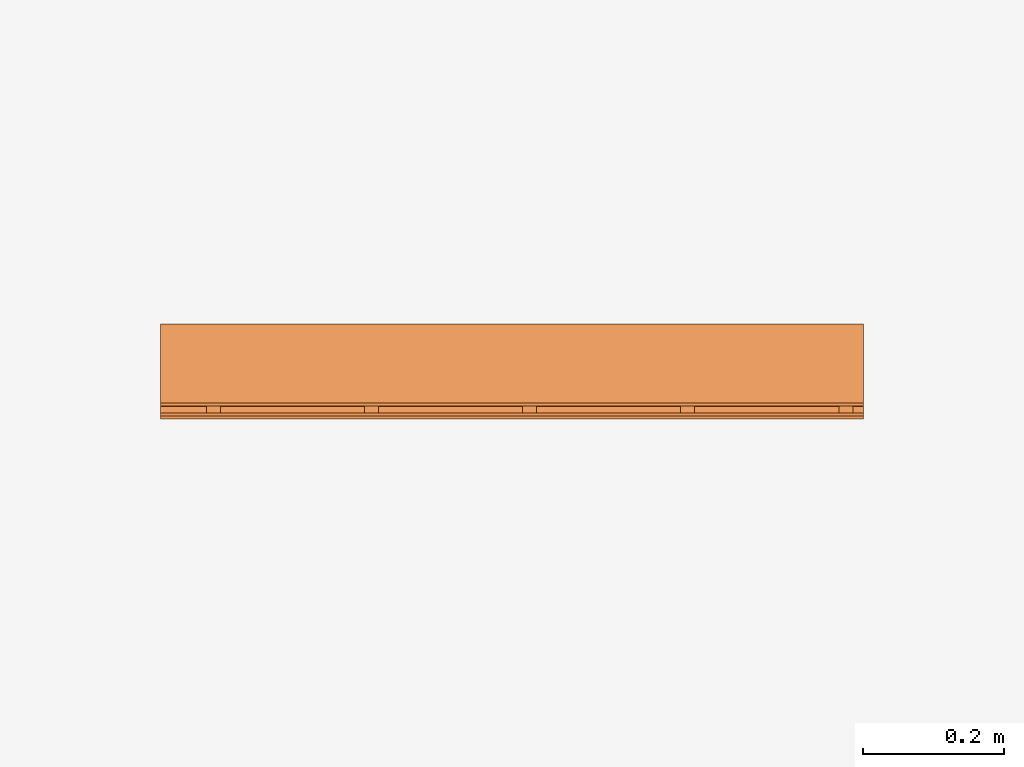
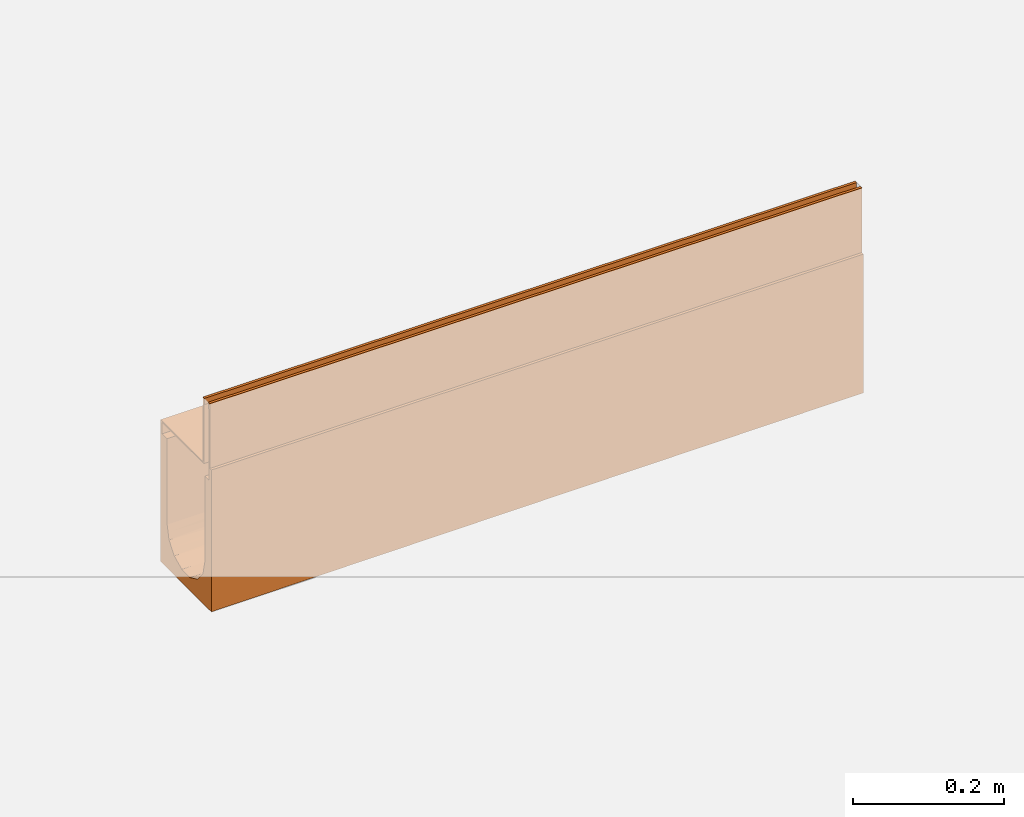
# One storey, part 2 of 2: 1 proxy.
"""IFC2X3 building model written with IfcOpenShell, lengths in millimetres."""

from ifc_helpers import new_model, entity, si_unit, converted_unit, direction, frame, origin, place, context, subcontext, project, spatial, faceted_brep, source, transform, mapped, material, material_list, element, save


model = new_model("IFC2X3")

# Units and contexts
model_context = context("Model", 3, precision=1e-06, world=origin(), true_north=direction((2.0, 6.12303176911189e-17, 1.0)))
context_of_model = context(None, 3, precision=1e-06, world=origin(), true_north=direction((2.0, 6.12303176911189e-17, 1.0)))
body_context = subcontext(model_context, "Body", "Model", "MODEL_VIEW")
ifc_project = project(units=[si_unit("LENGTHUNIT", "METRE", prefix="MILLI"), si_unit("AREAUNIT", "SQUARE_METRE", prefix="MILLI"), si_unit("VOLUMEUNIT", "CUBIC_METRE", prefix="MILLI"), converted_unit("PLANEANGLEUNIT", "DEGREE", entity("IfcRatioMeasure", 0.0174532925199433), si_unit("PLANEANGLEUNIT", "RADIAN"), dimensions=[0, 0, 0, 0, 0, 0, 0]), si_unit("TIMEUNIT", "SECOND")], contexts=[model_context, context_of_model])

# Site, building, storey
site_placement = place(None, origin())
site = spatial("IfcSite", under=ifc_project, at=site_placement, Name="Default", CompositionType="ELEMENT")
building_placement = place(site_placement, origin())
building = spatial("IfcBuilding", under=site, at=building_placement, CompositionType="ELEMENT")
storey_placement = place(building_placement, origin())
storey = spatial("IfcBuildingStorey", under=building, at=storey_placement, Name="Level 1", CompositionType="ELEMENT", Elevation=0.0)

# Proxy
ifc_material_1 = material(Name="Steel, Galvanized")
ifc_material_2 = material(Name="Vienite® Synthetic Resin Concrete")
ifc_material_list = material_list([ifc_material_1, ifc_material_2])
shared_shape = source(origin(), body_context, "Body", "Brep", [
    faceted_brep([(63.249999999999, 15.0, -107.0), (63.249999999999, 17.0, -109.0), (63.249999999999, 33.0, -109.0), (63.249999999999, 35.0, -107.0), (63.249999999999, 17.0, -123.499999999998), (63.249999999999, 15.0, -125.499999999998), (63.249999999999, 33.0, -123.499999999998), (63.249999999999, 35.0, -125.499999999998), (-61.250000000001, 15.0, -125.499999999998), (-61.250000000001, 17.0, -123.499999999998), (-61.250000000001, 33.0, -123.499999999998), (-61.250000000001, 35.0, -125.499999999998), (-61.250000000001, 17.0, -109.0), (-61.250000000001, 15.0, -107.0), (-61.250000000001, 33.0, -109.0), (-61.250000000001, 35.0, -107.0)], [[[0, 1, 2, 3]], [[4, 1, 0, 5]], [[3, 2, 6, 7]], [[6, 4, 5, 7]], [[8, 9, 10, 11]], [[12, 9, 8, 13]], [[11, 10, 14, 15]], [[14, 12, 13, 15]], [[5, 0, 13, 8]], [[7, 5, 8, 11]], [[3, 7, 11, 15]], [[0, 3, 15, 13]], [[1, 4, 9, 12]], [[14, 2, 1, 12]], [[6, 2, 14, 10]], [[9, 4, 6, 10]]]),
    faceted_brep([(-47.2500000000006, 0.0, -10.0), (-47.2500000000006, 0.0, -107.0), (-45.2500000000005, 0.0, -105.0), (-45.2500000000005, 0.0, 0.0), (-49.2500000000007, 0.0, 0.0), (-49.2500000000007, 0.0, -10.0), (63.2499999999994, 0.0, -107.0), (63.2499999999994, 0.0, -105.0), (-45.2500000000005, 1000.0, -105.0), (63.2499999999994, 1000.0, -105.0), (63.2499999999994, 1000.0, -107.0), (-47.2500000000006, 1000.0, -107.0), (-47.2500000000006, 1000.0, -10.0), (-45.2500000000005, 1000.0, 0.0), (-49.2500000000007, 1000.0, -10.0), (-49.2500000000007, 1000.0, 0.0)], [[[0, 1, 2, 3]], [[4, 5, 0, 3]], [[6, 7, 2, 1]], [[8, 9, 10, 11]], [[12, 13, 8, 11]], [[12, 14, 15, 13]], [[0, 5, 14, 12]], [[11, 1, 0, 12]], [[6, 1, 11, 10]], [[9, 7, 6, 10]], [[8, 2, 7, 9]], [[3, 2, 8, 13]], [[15, 4, 3, 13]], [[5, 4, 15, 14]]]),
    faceted_brep([(-59.2500000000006, 1000.0, 0.0), (-59.2500000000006, 1000.0, -10.0), (-61.2500000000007, 1000.0, -10.0), (-63.2500000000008, 1000.0, 0.0), (-63.2500000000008, 1000.0, -125.499999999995), (-61.2500000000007, 1000.0, -125.499999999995), (-61.2500000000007, 0.0, -10.0), (-63.2500000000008, 0.0, 0.0), (-63.2500000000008, 0.0, -125.499999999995), (-61.2500000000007, 0.0, -125.499999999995), (-59.2500000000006, 0.0, 0.0), (-59.2500000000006, 0.0, -10.0)], [[[0, 1, 2, 3]], [[4, 3, 2, 5]], [[6, 7, 8, 9]], [[10, 7, 6, 11]], [[9, 8, 4, 5]], [[6, 9, 5, 2]], [[11, 6, 2, 1]], [[10, 11, 1, 0]], [[3, 7, 10, 0]], [[4, 8, 7, 3]]]),
    faceted_brep([(63.2499999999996, 465.0, -107.0), (63.2499999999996, 467.0, -109.0), (63.2499999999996, 483.0, -109.0), (63.2499999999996, 485.0, -107.0), (63.2499999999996, 467.0, -123.499999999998), (63.2499999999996, 465.0, -125.499999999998), (63.2499999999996, 483.0, -123.499999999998), (63.2499999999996, 485.0, -125.499999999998), (-61.2500000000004, 465.0, -125.499999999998), (-61.2500000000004, 467.0, -123.499999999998), (-61.2500000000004, 483.0, -123.499999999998), (-61.2500000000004, 485.0, -125.499999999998), (-61.2500000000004, 467.0, -109.0), (-61.2500000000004, 465.0, -107.0), (-61.2500000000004, 483.0, -109.0), (-61.2500000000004, 485.0, -107.0)], [[[0, 1, 2, 3]], [[4, 1, 0, 5]], [[3, 2, 6, 7]], [[6, 4, 5, 7]], [[8, 9, 10, 11]], [[12, 9, 8, 13]], [[11, 10, 14, 15]], [[14, 12, 13, 15]], [[5, 0, 13, 8]], [[7, 5, 8, 11]], [[3, 7, 11, 15]], [[0, 3, 15, 13]], [[1, 4, 9, 12]], [[2, 1, 12, 14]], [[6, 2, 14, 10]], [[4, 6, 10, 9]]]),
    faceted_brep([(63.2499999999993, 240.0, -107.0), (63.2499999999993, 242.0, -109.0), (63.2499999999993, 258.0, -109.0), (63.2499999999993, 260.0, -107.0), (63.2499999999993, 242.0, -123.499999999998), (63.2499999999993, 240.0, -125.499999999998), (63.2499999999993, 258.0, -123.499999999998), (63.2499999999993, 260.0, -125.499999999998), (-61.2500000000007, 240.0, -125.499999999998), (-61.2500000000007, 242.0, -123.499999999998), (-61.2500000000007, 258.0, -123.499999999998), (-61.2500000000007, 260.0, -125.499999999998), (-61.2500000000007, 242.0, -109.0), (-61.2500000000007, 240.0, -107.0), (-61.2500000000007, 258.0, -109.0), (-61.2500000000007, 260.0, -107.0)], [[[0, 1, 2, 3]], [[4, 1, 0, 5]], [[3, 2, 6, 7]], [[6, 4, 5, 7]], [[8, 9, 10, 11]], [[12, 9, 8, 13]], [[11, 10, 14, 15]], [[14, 12, 13, 15]], [[5, 0, 13, 8]], [[7, 5, 8, 11]], [[3, 7, 11, 15]], [[0, 3, 15, 13]], [[1, 4, 9, 12]], [[2, 1, 12, 14]], [[6, 2, 14, 10]], [[4, 6, 10, 9]]]),
    faceted_brep([(63.2500000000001, 915.0, -107.0), (63.2500000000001, 917.0, -109.0), (63.2500000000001, 933.0, -109.0), (63.2500000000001, 935.0, -107.0), (63.2500000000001, 917.0, -123.499999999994), (63.2500000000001, 915.0, -125.499999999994), (63.2500000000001, 933.0, -123.499999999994), (63.2500000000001, 935.0, -125.499999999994), (-61.2499999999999, 915.0, -125.499999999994), (-61.2499999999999, 917.0, -123.499999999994), (-61.2499999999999, 933.0, -123.499999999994), (-61.2499999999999, 935.0, -125.499999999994), (-61.2499999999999, 917.0, -109.0), (-61.2499999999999, 915.0, -107.0), (-61.2499999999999, 933.0, -109.0), (-61.2499999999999, 935.0, -107.0)], [[[0, 1, 2, 3]], [[4, 1, 0, 5]], [[3, 2, 6, 7]], [[6, 4, 5, 7]], [[8, 9, 10, 11]], [[12, 9, 8, 13]], [[11, 10, 14, 15]], [[14, 12, 13, 15]], [[5, 0, 13, 8]], [[11, 7, 5, 8]], [[3, 7, 11, 15]], [[13, 0, 3, 15]], [[1, 4, 9, 12]], [[2, 1, 12, 14]], [[6, 2, 14, 10]], [[4, 6, 10, 9]]]),
    faceted_brep([(63.2499999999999, 690.0, -107.0), (63.2499999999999, 692.0, -109.0), (63.2499999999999, 708.0, -109.0), (63.2499999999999, 710.0, -107.0), (63.2499999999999, 692.0, -123.499999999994), (63.2499999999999, 690.0, -125.499999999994), (63.2499999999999, 708.0, -123.499999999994), (63.2499999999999, 710.0, -125.499999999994), (-61.2500000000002, 690.0, -125.499999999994), (-61.2500000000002, 692.0, -123.499999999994), (-61.2500000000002, 708.0, -123.499999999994), (-61.2500000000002, 710.0, -125.499999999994), (-61.2500000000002, 692.0, -109.0), (-61.2500000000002, 690.0, -107.0), (-61.2500000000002, 708.0, -109.0), (-61.2500000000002, 710.0, -107.0)], [[[0, 1, 2, 3]], [[4, 1, 0, 5]], [[3, 2, 6, 7]], [[6, 4, 5, 7]], [[8, 9, 10, 11]], [[12, 9, 8, 13]], [[11, 10, 14, 15]], [[14, 12, 13, 15]], [[5, 0, 13, 8]], [[11, 7, 5, 8]], [[3, 7, 11, 15]], [[13, 0, 3, 15]], [[1, 4, 9, 12]], [[2, 1, 12, 14]], [[6, 2, 14, 10]], [[4, 6, 10, 9]]]),
    faceted_brep([(-67.4999999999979, 1000.0, -105.0), (-63.2499999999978, 1000.0, -105.0), (-63.2499999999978, 1000.0, -125.500000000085), (-67.4999999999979, 1000.0, -335.0), (-50.0, 1000.0, -125.500000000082), (-50.0, 1000.0, -265.0), (-47.5242216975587, 1000.0, -275.847093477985), (-45.0484433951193, 1000.0, -286.694186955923), (-31.1744900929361, 1000.0, -304.091574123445), (-21.1502683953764, 1000.0, -308.91898486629), (-11.1260466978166, 1000.0, -313.746395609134), (-38.1114667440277, 1000.0, -295.392880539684), (0.0, 1000.0, -313.746395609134), (11.126046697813, 1000.0, -313.746395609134), (50.0, 1000.0, -265.0), (50.0, 1000.0, -125.500000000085), (63.249999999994, 1000.0, -125.500000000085), (67.500000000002, 1000.0, -335.0), (63.249999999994, 1000.0, -105.0), (67.500000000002, 1000.0, -105.0), (21.1502683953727, 1000.0, -308.91898486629), (31.1744900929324, 1000.0, -304.091574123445), (45.0484433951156, 1000.0, -286.694186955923), (47.5242216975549, 1000.0, -275.847093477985), (38.111466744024, 1000.0, -295.392880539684), (-67.5000000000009, 0.0, -330.0), (-45.0484433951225, 0.0, -281.694186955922), (-46.5542373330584, 0.0, -275.096872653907), (-50.0, 0.0, -260.0), (-31.1744900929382, 0.0, -299.091574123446), (-38.1114667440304, 0.0, -290.392880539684), (-11.1260466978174, 0.0, -308.746395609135), (-21.1502683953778, 0.0, -303.91898486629), (11.1260466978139, 0.0, -308.746395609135), (0.0, 0.0, -308.746395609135), (67.4999999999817, 0.0, -330.0), (-63.2499999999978, 0.0, -125.500000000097), (-63.2499999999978, 0.0, -105.0), (-67.5000000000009, 0.0, -105.0), (-50.0, 0.0, -125.500000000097), (31.1744900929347, 0.0, -299.091574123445), (21.1502683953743, 0.0, -303.91898486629), (50.0, 0.0, -260.0), (46.5542371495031, 0.0, -275.096873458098), (45.0484433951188, 0.0, -281.694186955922), (38.1114667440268, 0.0, -290.392880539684), (63.2500000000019, 0.0, -125.500000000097), (50.0, 0.0, -125.500000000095), (67.4999999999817, 0.0, -105.0), (63.2500000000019, 0.0, -105.0), (-50.0, 250.000013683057, -261.250000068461), (-35.5430016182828, 477.55479373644, -297.554449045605), (-39.0915746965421, 301.904841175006, -292.684013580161), (-30.4065854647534, 315.866317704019, -301.271138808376), (39.0915767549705, 653.204744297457, -294.44051051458), (43.1307072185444, 488.864082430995, -287.737443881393), (44.2106003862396, 635.514288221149, -286.531860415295), (-39.0915747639, 653.204746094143, -294.440513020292), (-29.696093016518, 646.565597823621, -303.458964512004), (-47.3876306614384, 374.999991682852, -277.82531219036), (-48.89171460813, 518.387005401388, -273.060948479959), (-2.91588081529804e-06, 301.904832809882, -311.509524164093), (-10.9684170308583, 305.042894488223, -310.307320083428), (-5.5982252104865, 150.952413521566, -310.440372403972), (12.0741057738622, 315.866299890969, -310.099594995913), (5.33371147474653, 477.554791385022, -312.10247522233), (35.3553400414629, 150.952387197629, -296.110100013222), (-41.8233658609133, 146.584549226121, -288.133763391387), (42.1728888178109, 829.135588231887, -291.005451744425), (47.0016510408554, 843.632235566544, -281.272333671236), (-50.0, 749.999986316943, -263.749999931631), (-47.0016499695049, 843.632222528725, -281.272336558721), (-21.6941880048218, 209.065851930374, -306.093772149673), (-35.3553394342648, 150.952420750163, -296.110100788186), (-34.4525207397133, 816.145858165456, -300.316399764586), (-25.646806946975, 806.214865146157, -306.952412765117), (21.6941814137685, 500.0, -307.548446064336), (29.6960925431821, 646.565642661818, -303.458965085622), (16.1554098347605, 747.818208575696, -311.057192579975), (-3.27550310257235e-06, 653.204751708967, -313.266023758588), (-8.54111809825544, 477.617179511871, -311.653178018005), (21.6941852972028, 209.065841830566, -306.093773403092), (-46.4228776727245, 186.188946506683, -279.502870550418), (34.4525215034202, 816.145876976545, -300.316399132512), (49.2918467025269, 134.881431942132, -269.0597424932), (47.3876313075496, 374.999975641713, -277.825310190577), (46.4228780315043, 186.188933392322, -279.502869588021), (-50.0, 499.999972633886, -262.499999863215), (39.0915763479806, 301.904795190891, -292.684011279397), (41.8233665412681, 146.584526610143, -288.133762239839), (25.6468067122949, 806.214870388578, -306.952412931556), (-5.38536224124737, 826.602379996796, -313.842144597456), (-16.1554121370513, 747.81816965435, -311.057191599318), (35.5430053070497, 477.554758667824, -297.554445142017), (-42.1728873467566, 829.135597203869, -291.005454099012), (5.59822218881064, 150.952412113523, -310.440372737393), (30.4065855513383, 315.866251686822, -301.271138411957), (-43.1307054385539, 488.864104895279, -287.737447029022), (-44.2105988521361, 635.514296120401, -286.531863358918), (-49.2918465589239, 134.881438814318, -269.059743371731), (-47.7236140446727, 671.453379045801, -278.272248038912), (48.8917149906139, 518.386993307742, -273.060946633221), (50.0, 250.000027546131, -261.250000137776), (50.0, 499.999944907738, -262.499999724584), (50.0, 749.999972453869, -263.749999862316), (47.7236147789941, 671.453375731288, -278.272245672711), (-22.9273943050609, 354.532924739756, -306.206149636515), (-21.6941890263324, 500.0, -307.548442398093), (5.80423086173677, 807.818012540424, -313.701056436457), (22.9273914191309, 354.532889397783, -306.206150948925)], [[[0, 1, 2, 3]], [[2, 4, 5, 3]], [[3, 5, 6, 7]], [[3, 8, 9, 10]], [[3, 7, 11, 8]], [[3, 10, 12, 13]], [[14, 15, 16, 17]], [[16, 18, 19, 17]], [[17, 13, 20, 21]], [[17, 22, 23, 14]], [[17, 21, 24, 22]], [[13, 17, 3]], [[25, 26, 27, 28]], [[25, 29, 30, 26]], [[25, 31, 32, 29]], [[33, 34, 25, 35]], [[36, 37, 38, 25]], [[28, 39, 36, 25]], [[35, 40, 41, 33]], [[35, 42, 43, 44]], [[35, 44, 45, 40]], [[46, 47, 42, 35]], [[48, 49, 46, 35]], [[1, 37, 36, 2]], [[0, 38, 37, 1]], [[0, 3, 25, 38]], [[3, 17, 35, 25]], [[19, 48, 35, 17]], [[18, 49, 48, 19]], [[16, 46, 49, 18]], [[16, 15, 47, 46]], [[4, 39, 28, 50]], [[2, 36, 39, 4]], [[51, 52, 53]], [[54, 55, 56]], [[57, 51, 58]], [[59, 60, 50]], [[61, 62, 63]], [[61, 64, 65]], [[40, 45, 66]], [[30, 67, 26]], [[68, 69, 22]], [[70, 71, 6]], [[29, 72, 73]], [[74, 75, 8]], [[76, 77, 78]], [[65, 79, 80]], [[66, 81, 40]], [[27, 26, 82]], [[24, 83, 68]], [[84, 85, 86]], [[87, 50, 60, 70]], [[88, 66, 89]], [[58, 75, 74]], [[83, 90, 77]], [[91, 10, 92]], [[76, 93, 77]], [[54, 93, 55]], [[94, 57, 74]], [[30, 73, 67]], [[63, 72, 31]], [[61, 63, 95]], [[72, 53, 73]], [[45, 89, 66]], [[93, 76, 96]], [[97, 98, 60]], [[27, 82, 99]], [[52, 51, 97]], [[98, 94, 71]], [[98, 71, 100]], [[101, 102, 103, 104]], [[102, 101, 85]], [[84, 86, 43]], [[104, 69, 105]], [[69, 68, 56]], [[28, 27, 99]], [[52, 59, 82]], [[99, 59, 50]], [[72, 29, 32, 31]], [[29, 73, 30]], [[67, 52, 82]], [[95, 34, 33]], [[73, 53, 52]], [[72, 106, 53]], [[107, 58, 51]], [[107, 51, 53]], [[97, 51, 57]], [[58, 107, 92]], [[74, 57, 58]], [[80, 92, 107]], [[79, 108, 91]], [[98, 97, 57]], [[52, 97, 59]], [[52, 67, 73]], [[26, 67, 82]], [[92, 10, 9]], [[74, 11, 94]], [[92, 9, 75]], [[94, 7, 71]], [[75, 58, 92]], [[59, 99, 82]], [[28, 99, 50]], [[11, 74, 8]], [[11, 7, 94]], [[8, 75, 9]], [[70, 6, 5]], [[71, 70, 100]], [[71, 7, 6]], [[43, 86, 44]], [[42, 102, 84]], [[88, 86, 85]], [[42, 84, 43]], [[85, 84, 102]], [[81, 66, 96]], [[86, 89, 44]], [[81, 33, 41, 40]], [[96, 66, 88]], [[95, 64, 61]], [[93, 96, 88]], [[109, 81, 96]], [[55, 88, 85]], [[93, 54, 77]], [[54, 83, 77]], [[90, 78, 77]], [[12, 91, 108]], [[65, 78, 79]], [[88, 55, 93]], [[55, 85, 101]], [[44, 89, 45]], [[88, 89, 86]], [[68, 83, 54]], [[20, 90, 21]], [[68, 54, 56]], [[24, 21, 83]], [[78, 20, 13]], [[68, 22, 24]], [[21, 90, 83]], [[20, 78, 90]], [[101, 104, 105]], [[104, 23, 69]], [[23, 104, 14]], [[91, 92, 79]], [[23, 22, 69]], [[63, 31, 34]], [[33, 81, 95]], [[64, 95, 81]], [[109, 64, 81]], [[76, 78, 65]], [[76, 65, 64]], [[79, 92, 80]], [[107, 106, 62]], [[61, 65, 80]], [[95, 63, 34]], [[61, 80, 62]], [[107, 62, 80]], [[72, 63, 62]], [[97, 60, 59]], [[70, 60, 100]], [[101, 105, 56]], [[62, 106, 72]], [[107, 53, 106]], [[94, 98, 57]], [[60, 98, 100]], [[96, 76, 109]], [[64, 109, 76]], [[101, 56, 55]], [[56, 105, 69]], [[108, 79, 78]], [[10, 91, 12]], [[78, 13, 108]], [[12, 108, 13]], [[15, 14, 104, 103]], [[47, 15, 42]], [[25, 34, 31]], [[4, 50, 87, 70]], [[4, 70, 5]], [[15, 103, 102, 42]]]),
])
proxy_placement = place(storey_placement, frame((143.656586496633, 99.9218925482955, 0.0), z_axis=(0.0, 0.0, 1.0), x_axis=(0.0, 1.0, 0.0)))
element("IfcBuildingElementProxy", 1, at=proxy_placement, inside=storey, material=ifc_material_list, Name="Civil-Drainage-Channel-ACO-MultiDrain-M100D-Brickslot-Channel-System:23016 - No 16 Sloping Channel - 1000mm LG - Invert Depth 205/210mm:23016 - No 16 Sloping Channel - 1000mm LG - Invert Depth 205/210mm", ObjectType="23016 - No 16 Sloping Channel - 1000mm LG - Invert Depth 205/210mm", CompositionType="ELEMENT", context=body_context, shape_type="MappedRepresentation", body=[
    mapped(shared_shape, transform((0.0, 0.0, 0.0), scale=1.0)),
])

save(model, "model.ifc")
